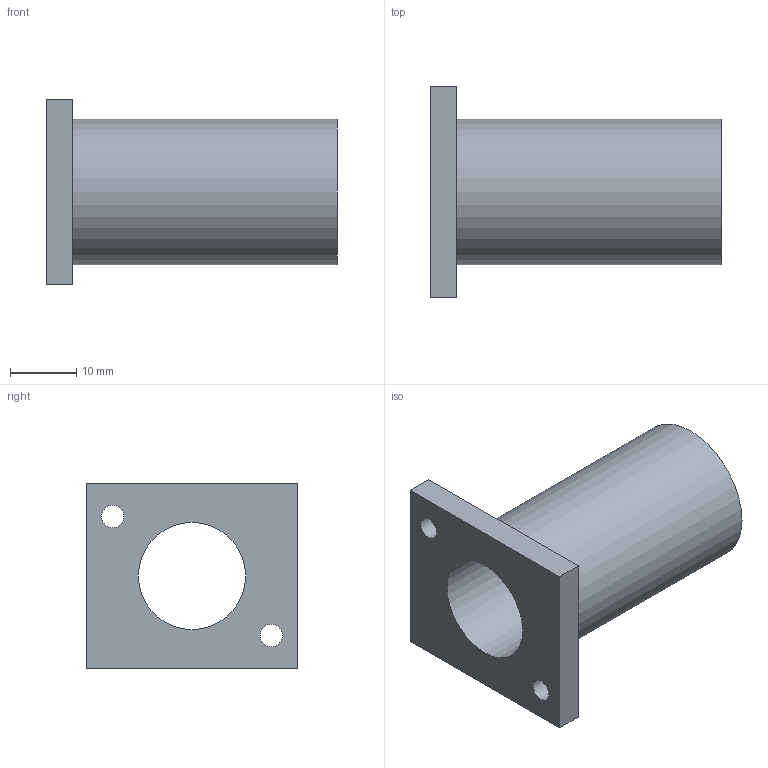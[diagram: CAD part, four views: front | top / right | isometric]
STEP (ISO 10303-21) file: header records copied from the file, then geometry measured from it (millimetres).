
FILE_DESCRIPTION(('FreeCAD Model'),'2;1');
FILE_NAME('Open CASCADE Shape Model','2026-11-20T03:22:07',('FreeCAD'),( 'FreeCAD'),'Open CASCADE STEP processor 7.8','FreeCAD','Unknown');
FILE_SCHEMA(('AUTOMOTIVE_DESIGN { 1 0 10303 214 1 1 1 1 }'));
Length unit declared in the file: millimetre
Products named in the file (1): Open CASCADE STEP translator 7.8 5
Bounding box: 44 x 32 x 28 mm (x, y, z)
Volume: 9647.4 mm3; surface area: 6912.8 mm2
Topology: 1 solids, 1 shells, 11 faces, 24 edges, 16 vertices
Faces by surface type: plane 7, cylinder 4
Full cylindrical faces by diameter (mm): 3.4 x2, 16.2 x1, 22 x1
Entity records: 328 total; most frequent: DIRECTION 56, CARTESIAN_POINT 52, ORIENTED_EDGE 48, EDGE_CURVE 24, AXIS2_PLACEMENT_3D 20, FACE_BOUND 18, EDGE_LOOP 18, VERTEX_POINT 16
